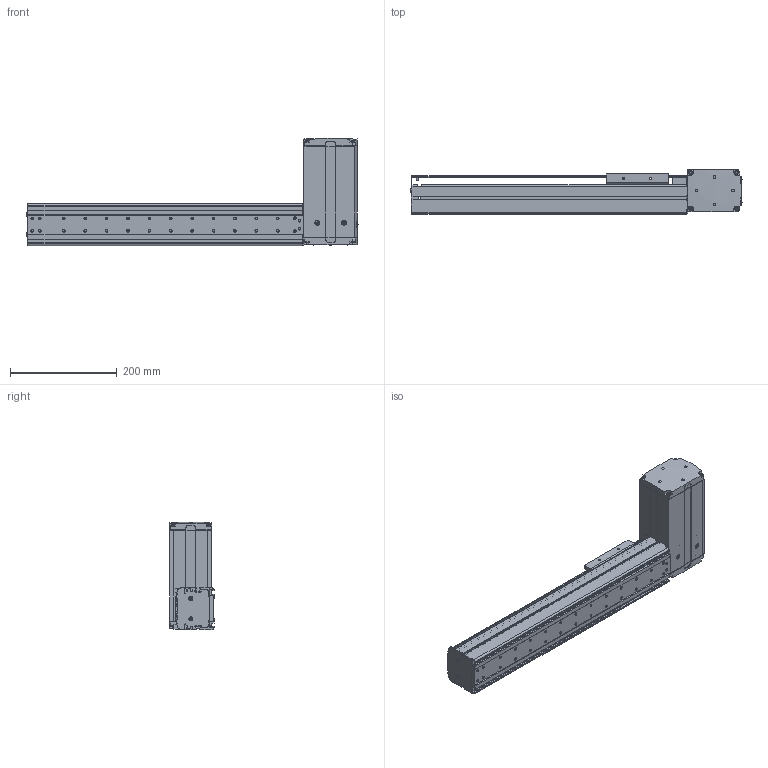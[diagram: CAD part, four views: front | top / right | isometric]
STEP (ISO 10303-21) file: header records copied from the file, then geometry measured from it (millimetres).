
FILE_DESCRIPTION((''),'2;1');
FILE_NAME('BE10_-BR-M_N-30_IGS_PRT','2017-06-18T',(' '),(''),'PRO/ENGINEER BY PARAMETRIC TECHNOLOGY CORPORATION, 2015030','PRO/ENGINEER BY PARAMETRIC TECHNOLOGY CORPORATION, 2015030','');
FILE_SCHEMA(('CONFIG_CONTROL_DESIGN'));
Products named in the file (1): BE10_-BR-M_N-30_IGS_PRT
Bounding box: 620.8 x 82.5 x 200.22 mm (x, y, z)
Volume: 941097.7 mm3; surface area: 659764.5 mm2
Topology: 3 solids, 116 shells, 1976 faces, 5383 edges, 3525 vertices
Faces by surface type: plane 971, cylinder 834, cone 111, sphere 30, torus 27, bspline 3
Entity records: 63878 total; most frequent: CARTESIAN_POINT 12943, DIRECTION 10790, ORIENTED_EDGE 10266, EDGE_CURVE 5321, AXIS2_PLACEMENT_3D 3819, VERTEX_POINT 3525, VECTOR 3152, LINE 3152
